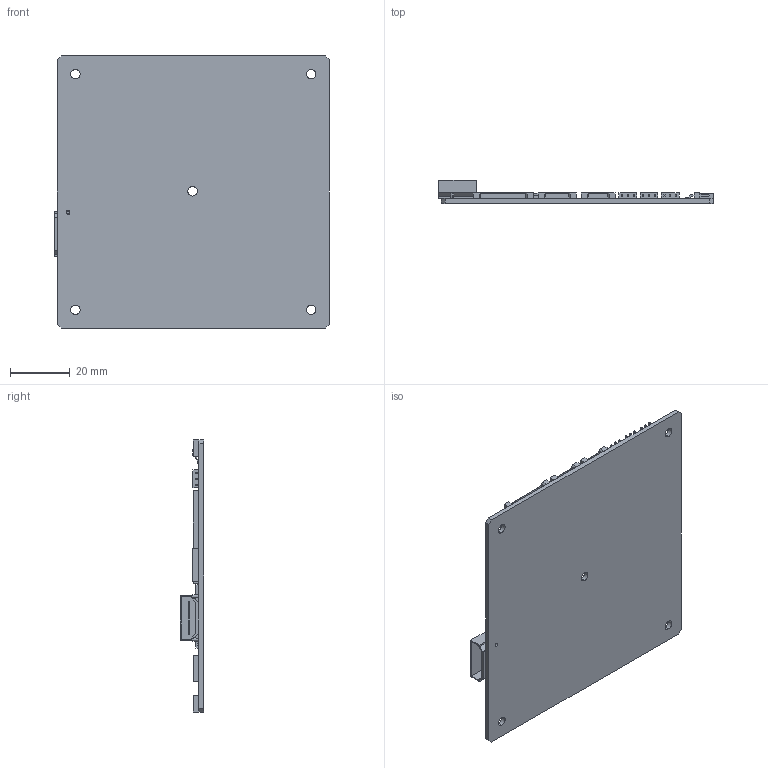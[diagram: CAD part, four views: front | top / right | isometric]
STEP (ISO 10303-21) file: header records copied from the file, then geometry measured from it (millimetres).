
FILE_DESCRIPTION (( 'STEP AP203' ), '1' );
FILE_NAME ('Assy PCB DT-1920-HDMI-EDP 417660210-3 191215.STEP', '2019-12-15T23:52:25', ( '' ), ( '' ), 'SwSTEP 2.0', 'SolidWorks 2019', '' );
FILE_SCHEMA (( 'CONFIG_CONTROL_DESIGN' ));
Length unit declared in the file: inch
Products named in the file (11): 190010805-3 DIP Switch 8P Horz; 216062103-3 Hdr RA 3P TEZY; Assy PCB DT-1920-HDMI-EDP 417660210-3 191215; 216062112-3 Hdr RA 12P TEZY; 212200190-3 HDMI; 210021603-3 Hdr RA 3P; PCB DT-1920-HDMI-EDP 7660001; 216051030-3 Conn RA I-PEX 30P; 216062106-3 Hdr RA 6P TEZY; 216062105-3 Hdr RA 5P TEZY; 216062104-3 Hdr RA 4P TEZY
Assembly tree (16 placements, depth 2):
  Assy PCB DT-1920-HDMI-EDP 417660210-3 191215
    PCB DT-1920-HDMI-EDP 7660001
    190010805-3 DIP Switch 8P Horz
    212200190-3 HDMI
    210021603-3 Hdr RA 3P  x4
    216051030-3 Conn RA I-PEX 30P
    216062103-3 Hdr RA 3P TEZY  x2
    216062104-3 Hdr RA 4P TEZY
    216062105-3 Hdr RA 5P TEZY
    216062106-3 Hdr RA 6P TEZY  x2
    216062112-3 Hdr RA 12P TEZY  x2
Bounding box: 92.31 x 7.78 x 91.44 mm (x, y, z)
Volume: 14940.1 mm3; surface area: 21458.1 mm2
Topology: 16 solids, 16 shells, 646 faces, 1514 edges, 944 vertices
Faces by surface type: plane 624, cylinder 22
Entity records: 11367 total; most frequent: CARTESIAN_POINT 1773, ORIENTED_EDGE 1696, DIRECTION 1622, EDGE_CURVE 848, VECTOR 796, LINE 796, VERTEX_POINT 548, AXIS2_PLACEMENT_3D 413
